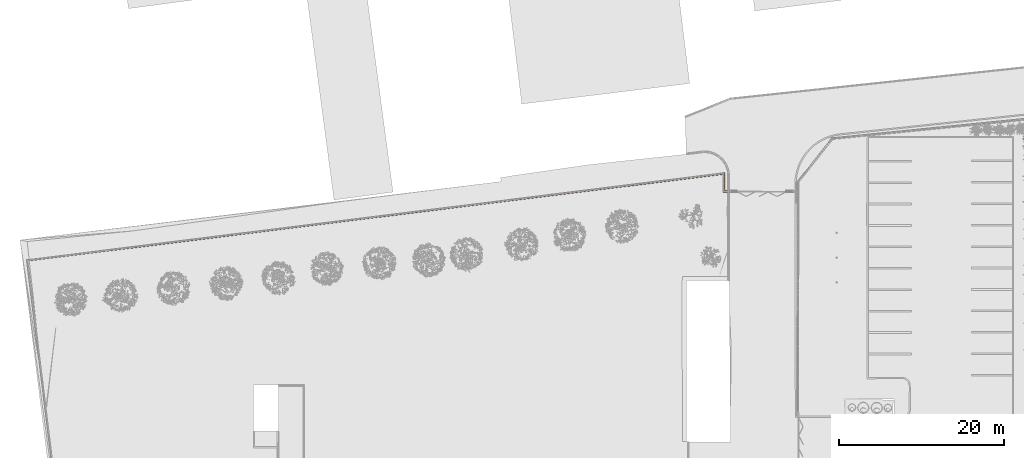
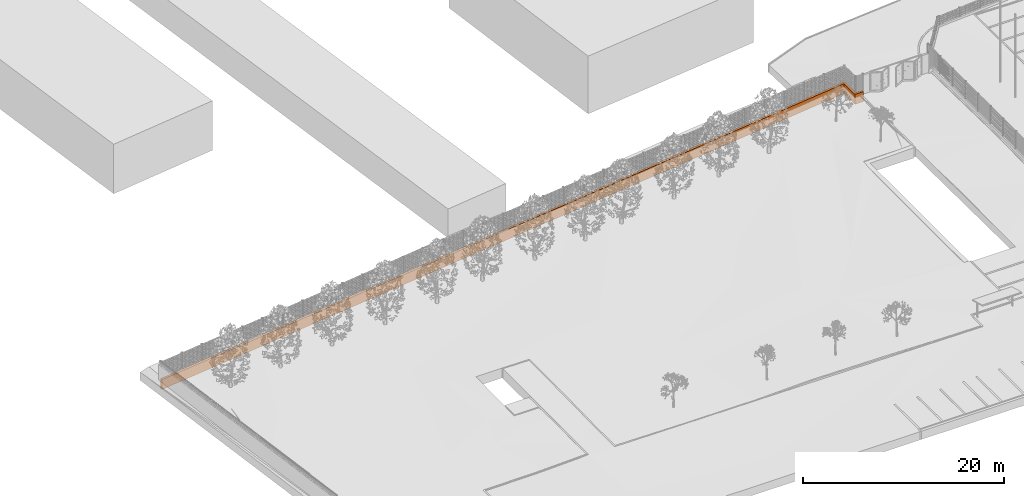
# One storey, part 25 of 1809: 1 proxy.
"""IFC2X3 building model written with IfcOpenShell, lengths in millimetres."""

from ifc_helpers import new_model, entity, si_unit, converted_unit, derived_unit, money_unit, direction, frame, origin_with_axes, place, context, subcontext, project, spatial, polyline, outline, extrude, material, type_object, element, save


model = new_model("IFC2X3")

# Units and contexts
model_context = context("Model", 3, precision=0.01, world=origin_with_axes(), true_north=direction((0.0, 1.0)))
body_context = subcontext(model_context, "Body", "Model", "MODEL_VIEW")
ifc_project = project(units=[si_unit("LENGTHUNIT", "METRE", prefix="MILLI"), si_unit("AREAUNIT", "SQUARE_METRE"), si_unit("VOLUMEUNIT", "CUBIC_METRE"), converted_unit("PLANEANGLEUNIT", "DEGREE", entity("IfcPlaneAngleMeasure", 0.0174532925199), si_unit("PLANEANGLEUNIT", "RADIAN"), dimensions=[0, 0, 0, 0, 0, 0, 0]), si_unit("SOLIDANGLEUNIT", "STERADIAN"), money_unit("EUR"), converted_unit("TIMEUNIT", "Year", entity("IfcTimeMeasure", 31556926.0), si_unit("TIMEUNIT", "SECOND"), dimensions=[0, 0, 1, 0, 0, 0, 0]), si_unit("MASSUNIT", "GRAM", prefix="KILO"), si_unit("THERMODYNAMICTEMPERATUREUNIT", "DEGREE_CELSIUS"), si_unit("LUMINOUSINTENSITYUNIT", "LUMEN"), si_unit("ENERGYUNIT", "JOULE", prefix="MEGA"), derived_unit("THERMALCONDUCTANCEUNIT", [(si_unit("POWERUNIT", "WATT"), 1), (si_unit("LENGTHUNIT", "METRE"), -1), (si_unit("THERMODYNAMICTEMPERATUREUNIT", "KELVIN"), -1)]), derived_unit("SPECIFICHEATCAPACITYUNIT", [(si_unit("ENERGYUNIT", "JOULE"), 1), (si_unit("MASSUNIT", "GRAM", prefix="KILO"), -1), (si_unit("THERMODYNAMICTEMPERATUREUNIT", "KELVIN"), -1)]), derived_unit("MASSDENSITYUNIT", [(si_unit("MASSUNIT", "GRAM", prefix="KILO"), 1), (si_unit("VOLUMEUNIT", "CUBIC_METRE"), -1)])], contexts=[model_context])

# Site, building, storey
site_placement = place(None, origin_with_axes())
site = spatial("IfcSite", under=ifc_project, at=site_placement, Name="Politse- ja Piirivalveameti ning Päästeameti ühishoone", CompositionType="ELEMENT")
building_placement = place(site_placement, origin_with_axes())
building = spatial("IfcBuilding", under=site, at=building_placement, Name="Politse- ja Piirivalveameti ning Päästeameti ühishoone", CompositionType="ELEMENT")
storey_placement = place(building_placement, origin_with_axes())
storey = spatial("IfcBuildingStorey", under=building, at=storey_placement, Name="Esimene korrus", CompositionType="ELEMENT", Elevation=0.0)

# Proxy
ifc_material = material(Name="Betoon")
building_element_proxy_type = type_object("IfcBuildingElementProxyType", Name="Betoon 1200", PredefinedType="NOTDEFINED")
proxy_placement = place(storey_placement, frame((50738.8299182, 77386.3823777, 313.694073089), z_axis=(0.0, 0.0, 1.0), x_axis=(1.0, 0.0, 0.0)))
element("IfcBuildingElementProxy", 1, at=proxy_placement, inside=storey, type_object=building_element_proxy_type, material=ifc_material, Name="PIIRDEAED", context=body_context, shape_type="SweptSolid", body=[
    extrude(outline(polyline([(0.0, 0.0), (-84574.2705449, -10550.5496855), (-84543.6397292, -10798.6702302), (-247.849055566, -282.857205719), (-231.380650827, -2441.21028096), (741.276153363, -2436.87879806), (749.514913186, -2187.01458909), (16.6217468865, -2190.12684589), (0.0, 0.0)])), frame((0.0, 0.0, -1200.0), z_axis=(0.0, 0.0, 1.0), x_axis=(1.0, 0.0, 0.0)), (0.0, 0.0, 1.0), 1200.0),
])

save(model, "model.ifc")
